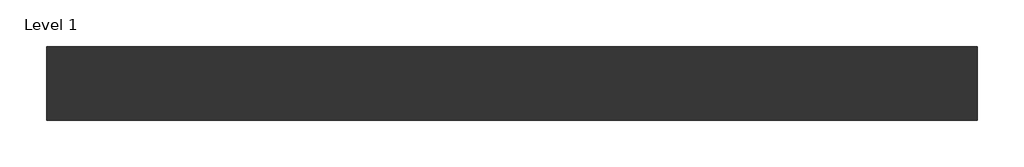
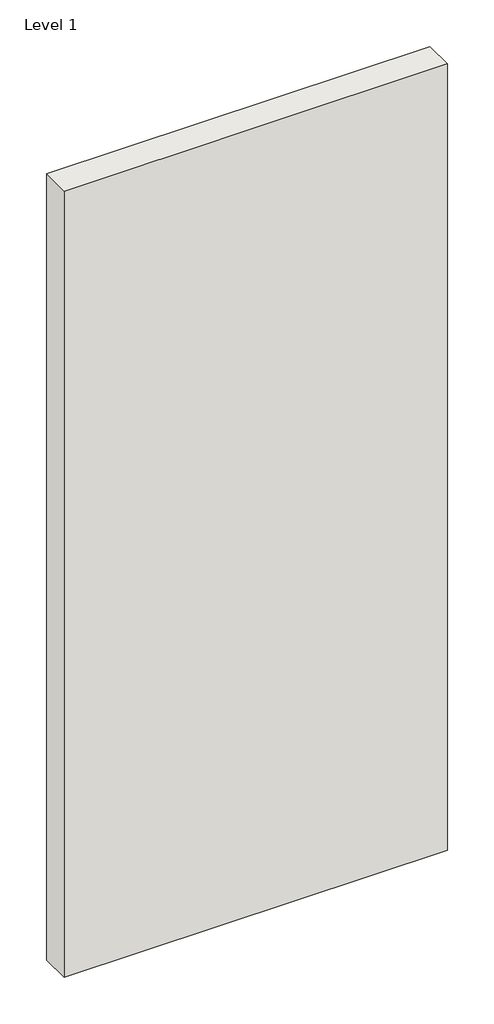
# One storey: 1 wall.
"""IFC4 building model written with IfcOpenShell, lengths in millimetres."""

import ifcopenshell
import ifcopenshell.guid

model = None  # the IFC model being written
_history = None  # IfcOwnerHistory: only IFC2X3 demands one
_inside = {}  # id of a spatial element -> (the spatial element, [elements in it])
_under = {}  # id of a project, library or spatial element -> (it, [spatial elements below it])
_declared = {}  # id of a project -> (the project, [libraries it declares])
_typed = {}  # id of a type object -> (the type object, [elements of that type])
_made_of = {}  # id of a material, layer set ... -> (it, [elements and type objects made of it])


def new_model(schema):
    """Start an empty IFC model of exactly this schema.

    Asked for "IFC4X3", IfcOpenShell would pick the latest addendum, in which some entities
    have other attributes; the version numbers below select the first issue.
    IFC2X3 requires an IfcOwnerHistory on every rooted entity: one is made here for all.
    """
    global model, _history
    if schema == "IFC4X3":
        model = ifcopenshell.file(schema_version=(4, 3, 0, 0))
    else:
        model = ifcopenshell.file(schema=schema)
    _inside.clear()
    _under.clear()
    _declared.clear()
    _typed.clear()
    _made_of.clear()
    _history = None
    if model.schema == "IFC2X3":
        org = make("IfcOrganization", Name="unknown")
        user = make(
            "IfcPersonAndOrganization",
            ThePerson=make("IfcPerson", FamilyName="unknown"),
            TheOrganization=org,
        )
        app = make(
            "IfcApplication",
            ApplicationDeveloper=org,
            Version="unknown",
            ApplicationFullName="unknown",
            ApplicationIdentifier="unknown",
        )
        _history = make(
            "IfcOwnerHistory",
            OwningUser=user,
            OwningApplication=app,
            ChangeAction="ADDED",
            CreationDate=0,
        )
    return model


def make(cls, **values):
    """One entity of the class cls with the attributes given. An attribute that is None is left unset."""
    return model.create_entity(
        cls, **{name: value for name, value in values.items() if value is not None}
    )


def rooted(cls, **values):
    """An entity with a GlobalId (a new one), such as an element, a storey or a relation."""
    return make(cls, GlobalId=ifcopenshell.guid.new(), OwnerHistory=_history, **values)


def si_unit(unit_type, name, prefix=None):
    """IfcSIUnit, for example si_unit("LENGTHUNIT", "METRE", prefix="MILLI")."""
    return make("IfcSIUnit", UnitType=unit_type, Prefix=prefix, Name=name)


def assignment(units):
    """IfcUnitAssignment: the units of a project."""
    return None if units is None else make("IfcUnitAssignment", Units=units)


def point(xyz):
    """IfcCartesianPoint."""
    return None if xyz is None else make("IfcCartesianPoint", Coordinates=xyz)


def direction(xyz):
    """IfcDirection."""
    return None if xyz is None else make("IfcDirection", DirectionRatios=xyz)


def frame(location, z_axis=None, x_axis=None):
    """IfcAxis2Placement3D, a coordinate frame: its origin and axes. An axis left out is left unset."""
    return make(
        "IfcAxis2Placement3D",
        Location=point(location),
        Axis=direction(z_axis),
        RefDirection=direction(x_axis),
    )


def origin():
    """The frame at (0, 0, 0) with its axes left unset."""
    return frame((0.0, 0.0, 0.0))


def origin_with_axes():
    """The frame at (0, 0, 0) with the z axis (0, 0, 1) and the x axis (1, 0, 0) written out."""
    return frame((0.0, 0.0, 0.0), z_axis=(0.0, 0.0, 1.0), x_axis=(1.0, 0.0, 0.0))


def place(relative_to, where):
    """IfcLocalPlacement: puts the frame where relative to a parent placement (None: the world)."""
    return make(
        "IfcLocalPlacement", PlacementRelTo=relative_to, RelativePlacement=where
    )


def context(
    kind, dimensions, precision=None, world=None, true_north=None, identifier=None
):
    """IfcGeometricRepresentationContext, for example the 3D "Model" context."""
    return make(
        "IfcGeometricRepresentationContext",
        ContextIdentifier=identifier,
        ContextType=kind,
        CoordinateSpaceDimension=dimensions,
        Precision=precision,
        WorldCoordinateSystem=world,
        TrueNorth=true_north,
    )


def project(units=None, contexts=None):
    """IfcProject with its units and contexts."""
    return rooted(
        "IfcProject",
        Name="project",
        RepresentationContexts=contexts,
        UnitsInContext=assignment(units),
    )


def spatial(cls, under=None, at=None, **own):
    """A site, building, storey or space (cls), placed at a placement, below another one or the project."""
    s = rooted(cls, ObjectPlacement=at, **own)
    if under is not None:
        _under.setdefault(under.id(), (under, []))[1].append(s)
    return s


def polyline(points):
    """IfcPolyline through the points."""
    return make("IfcPolyline", Points=[point(p) for p in points])


def outline(outer, holes=None, kind="AREA"):
    """IfcArbitraryClosedProfileDef: a profile drawn as a closed curve; with holes, ...WithVoids."""
    if holes is None:
        return make("IfcArbitraryClosedProfileDef", ProfileType=kind, OuterCurve=outer)
    return make(
        "IfcArbitraryProfileDefWithVoids",
        ProfileType=kind,
        OuterCurve=outer,
        InnerCurves=holes,
    )


def extrude(swept, where, along, depth):
    """IfcExtrudedAreaSolid: the profile swept, set in the frame where, extruded along a direction by depth."""
    return make(
        "IfcExtrudedAreaSolid",
        SweptArea=swept,
        Position=where,
        ExtrudedDirection=direction(along),
        Depth=depth,
    )


def shape(context_of_items, identifier, shape_type, items):
    """IfcShapeRepresentation: the items that make up one representation, for example the "Body"."""
    return make(
        "IfcShapeRepresentation",
        ContextOfItems=context_of_items,
        RepresentationIdentifier=identifier,
        RepresentationType=shape_type,
        Items=items,
    )


def made_of(thing, what):
    """Note that an element or type object is made of a material, layer set ...; save() writes the relation."""
    if what is not None:
        _made_of.setdefault(what.id(), (what, []))[1].append(thing)
    return thing


def element(
    cls,
    number,
    at=None,
    inside=None,
    cuts=None,
    type_object=None,
    material=None,
    context=None,
    identifier="Body",
    shape_type=None,
    held_by="IfcProductDefinitionShape",
    body=None,
    shapes=None,
    **own,
):
    """One element of the class cls, such as IfcWall. Its Tag is "e" and its number.

    at: its placement. inside: the storey or other place that contains it. cuts: it is an
    opening in that element (IfcRelVoidsElement). A single representation is given by context,
    identifier, shape_type and body (its items); several are given by shapes. held_by: the class
    of the entity that holds the representations. save() writes the other relations.
    """
    e = rooted(cls, Tag="e%d" % number, ObjectPlacement=at, **own)
    if body is not None:
        shapes = [shape(context, identifier, shape_type, body)]
    if shapes is not None:
        e.Representation = make(held_by, Representations=shapes)
    if inside is not None:
        _inside.setdefault(inside.id(), (inside, []))[1].append(e)
    if cuts is not None:
        rooted(
            "IfcRelVoidsElement", RelatingBuildingElement=cuts, RelatedOpeningElement=e
        )
    if type_object is not None:
        _typed.setdefault(type_object.id(), (type_object, []))[1].append(e)
    return made_of(e, material)


def aggregate(whole, parts):
    """IfcRelAggregates: a whole, such as a stair, and the parts it consists of."""
    return rooted("IfcRelAggregates", RelatingObject=whole, RelatedObjects=parts)


def save(model, path):
    """Write the relations noted so far, then the file.

    IfcRelAggregates (storeys below a building ...), IfcRelContainedInSpatialStructure (elements
    in a storey), IfcRelDefinesByType, IfcRelAssociatesMaterial and IfcRelDeclares: one each for
    every whole, place, type object, material and project.
    """
    for whole, parts in _under.values():
        aggregate(whole, parts)
    for where, things in _inside.values():
        rooted(
            "IfcRelContainedInSpatialStructure",
            RelatedElements=things,
            RelatingStructure=where,
        )
    for kind, things in _typed.values():
        rooted("IfcRelDefinesByType", RelatedObjects=things, RelatingType=kind)
    for what, things in _made_of.values():
        rooted("IfcRelAssociatesMaterial", RelatedObjects=things, RelatingMaterial=what)
    for by, libraries in _declared.values():
        rooted("IfcRelDeclares", RelatingContext=by, RelatedDefinitions=libraries)
    model.write(path)


model = new_model("IFC4")

# Units and contexts
model_context = context("Model", 3, world=origin())
ifc_project = project(units=[si_unit("LENGTHUNIT", "METRE", prefix="MILLI")], contexts=[model_context])

# Site, building, storey
site = spatial("IfcSite", under=ifc_project)
building = spatial("IfcBuilding", under=site)
storey = spatial("IfcBuildingStorey", under=building, Name="Level 1", Elevation=0.0)

# Wall
placement = place(None, origin())
element("IfcWall", 1, ObjectType="Trasdosado Placo® 115(90) 2xBA13 + 90LM c/600", at=placement, inside=storey, context=model_context, shape_type="SweptSolid", body=[
    extrude(outline(polyline([(-28676.4711674, -83494.3502842), (-29876.4711674, -83494.3502842), (-29876.4711674, -83399.3502842), (-28676.4711674, -83399.3502842), (-28676.4711674, -83494.3502842)])), origin_with_axes(), (0.0, 0.0, 1.0), 2600.0),
])

save(model, "model.ifc")
